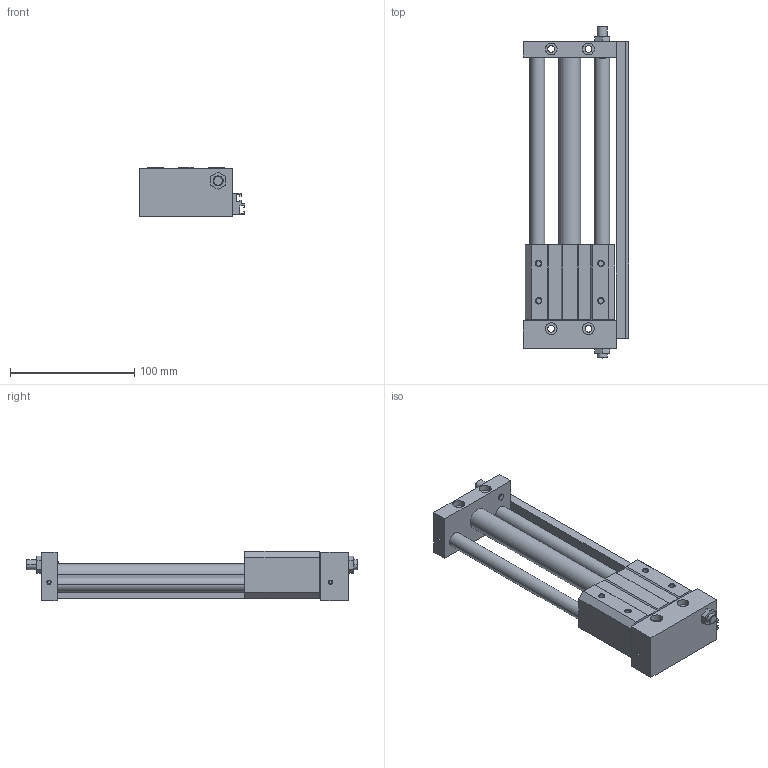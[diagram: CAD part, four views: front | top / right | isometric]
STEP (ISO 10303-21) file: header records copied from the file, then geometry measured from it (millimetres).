
FILE_DESCRIPTION((''),'2;1');
FILE_NAME('C:\Documents and Settings\Administrator\桌面\GYS\GYS15\GYSR15X150.stp','2012-03-05T10:55:45',('Administrator'),(''),'Autodesk Inventor 8','Autodesk Inventor 8','');
FILE_SCHEMA(('AUTOMOTIVE_DESIGN { 1 0 10303 214 1 1 1 1 }'));
Length unit declared in the file: millimetre
Products named in the file (3): GYSR15X150; GYS15X150; GYS15160X150
Assembly tree (2 placements, depth 2):
  GYSR15X150
    GYS15X150
    GYS15160X150
Bounding box: 85 x 267 x 40 mm (x, y, z)
Volume: 351128.6 mm3; surface area: 79051.6 mm2
Topology: 2 solids, 2 shells, 201 faces, 494 edges, 320 vertices
Faces by surface type: plane 107, cylinder 60, cone 28, bspline 6
Entity records: 6100 total; most frequent: CARTESIAN_POINT 1094, DIRECTION 1058, ORIENTED_EDGE 988, EDGE_CURVE 494, AXIS2_PLACEMENT_3D 364, VECTOR 330, LINE 330, VERTEX_POINT 320
